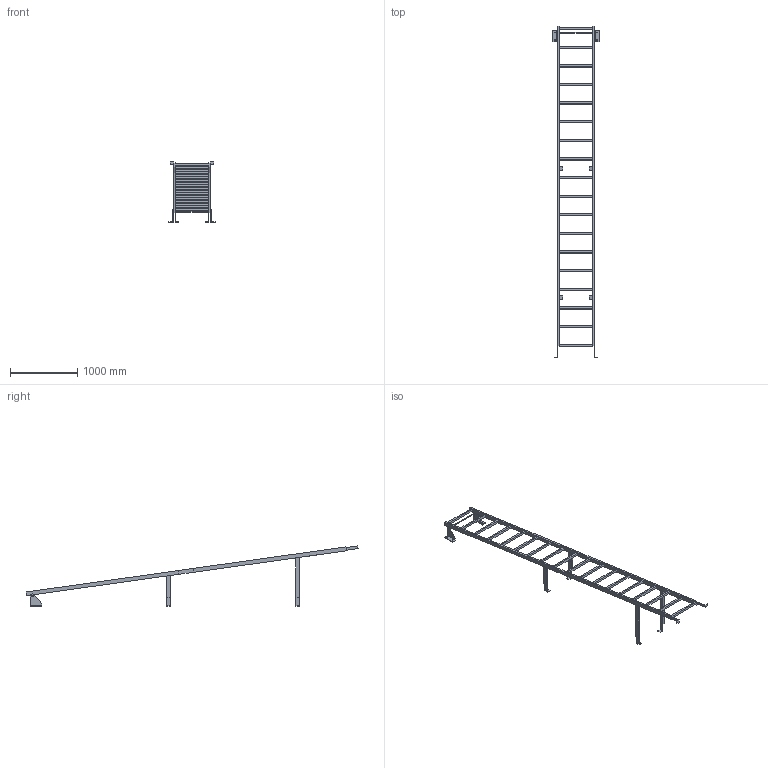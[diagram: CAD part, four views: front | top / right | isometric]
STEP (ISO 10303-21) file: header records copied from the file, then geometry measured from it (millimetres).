
FILE_DESCRIPTION((''),'2;1');
FILE_NAME('52310371','2024-10-17T09:09:34',('wep'),('HUBER SE'),'CREO PARAMETRIC BY PTC INC, 2022162','CREO PARAMETRIC BY PTC INC, 2022162','');
FILE_SCHEMA(('AUTOMOTIVE_DESIGN { 1 0 10303 214 1 1 1 1 }'));
Length unit declared in the file: millimetre
Products named in the file (1): 52310371
Bounding box: 690 x 4942.25 x 895.91 mm (x, y, z)
Volume: 24861260 mm3; surface area: 3294361.4 mm2
Topology: 11 solids, 11 shells, 204 faces, 528 edges, 352 vertices
Faces by surface type: plane 188, cylinder 16
Entity records: 6761 total; most frequent: CARTESIAN_POINT 1086, ORIENTED_EDGE 1056, DIRECTION 968, EDGE_CURVE 528, VECTOR 496, LINE 496, VERTEX_POINT 352, EDGE_LOOP 254
